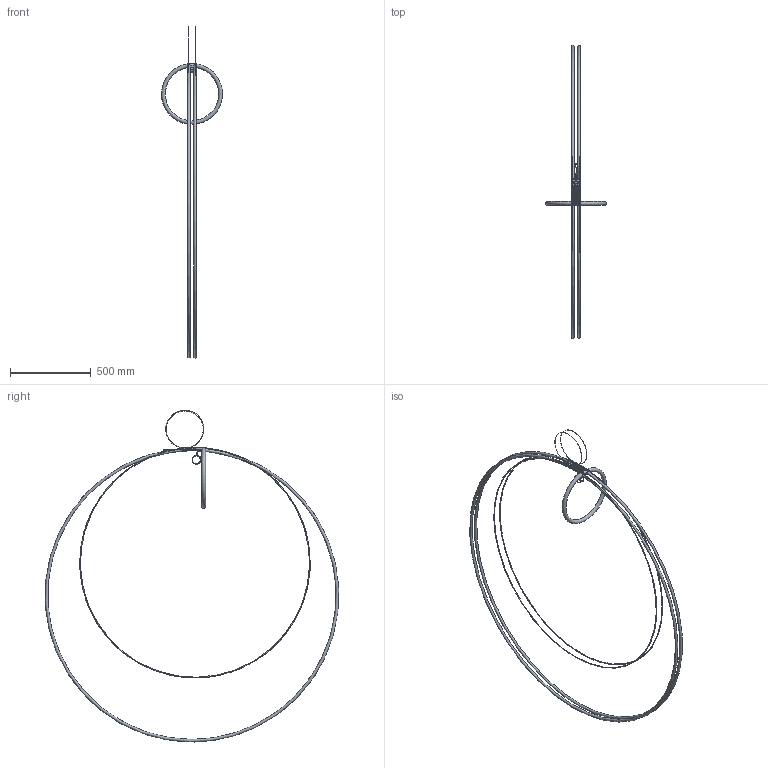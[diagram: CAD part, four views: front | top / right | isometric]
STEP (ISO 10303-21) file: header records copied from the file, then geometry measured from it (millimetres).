
FILE_DESCRIPTION((''),'2;1');
FILE_NAME('H3F_ASM','2014-06-03T',('user'),(''),'PRO/ENGINEER BY PARAMETRIC TECHNOLOGY CORPORATION, 2008090','PRO/ENGINEER BY PARAMETRIC TECHNOLOGY CORPORATION, 2008090','');
FILE_SCHEMA(('CONFIG_CONTROL_DESIGN'));
Products named in the file (1): H3F_ASM
Bounding box: 378.24 x 1818.65 x 2058.64 mm (x, y, z)
Surface area: 930545.9 mm2 (no closed solid volume)
Topology: 0 solids, 0 shells, 1561 faces, 8456 edges, 8388 vertices
Faces by surface type: bspline 1464, torus 85, sphere 12
Entity records: 148223 total; most frequent: CARTESIAN_POINT 76718, DIRECTION 10637, TRIMMED_CURVE 9239, DEFINITIONAL_REPRESENTATION 8332, PCURVE 8332, COMPOSITE_CURVE_SEGMENT 8332, VECTOR 8035, LINE 8035
